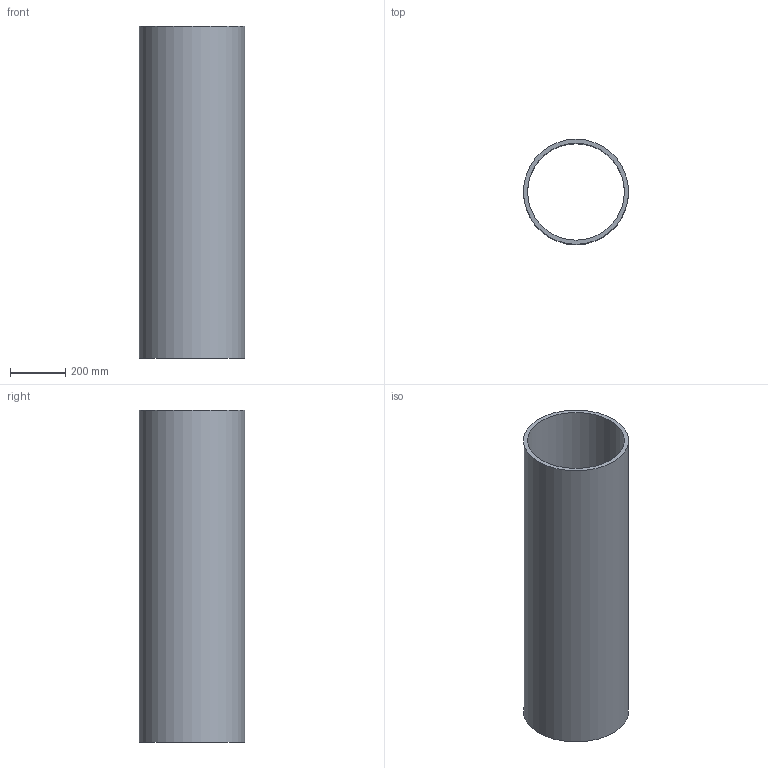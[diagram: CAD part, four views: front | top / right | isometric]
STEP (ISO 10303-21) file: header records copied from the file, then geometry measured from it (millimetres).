
FILE_DESCRIPTION(('Open CASCADE Model'),'2;1');
FILE_NAME('Open CASCADE Shape Model','2026-02-11T21:32:42',('Author'),( 'Open CASCADE'),'Open CASCADE STEP processor 7.8','Open CASCADE 7.8' ,'Unknown');
FILE_SCHEMA(('AUTOMOTIVE_DESIGN { 1 0 10303 214 1 1 1 1 }'));
Length unit declared in the file: millimetre
Products named in the file (1): Open CASCADE STEP translator 7.8 7
Bounding box: 380 x 380 x 1200 mm (x, y, z)
Volume: 20640263.7 mm3; surface area: 2786435.6 mm2
Topology: 1 solids, 1 shells, 4 faces, 6 edges, 4 vertices
Faces by surface type: cylinder 2, plane 2
Full cylindrical faces by diameter (mm): 350 x1, 380 x1
Entity records: 186 total; most frequent: DIRECTION 32, CARTESIAN_POINT 27, ORIENTED_EDGE 12, PCURVE 12, DEFINITIONAL_REPRESENTATION 12, LINE 10, VECTOR 10, AXIS2_PLACEMENT_3D 9
